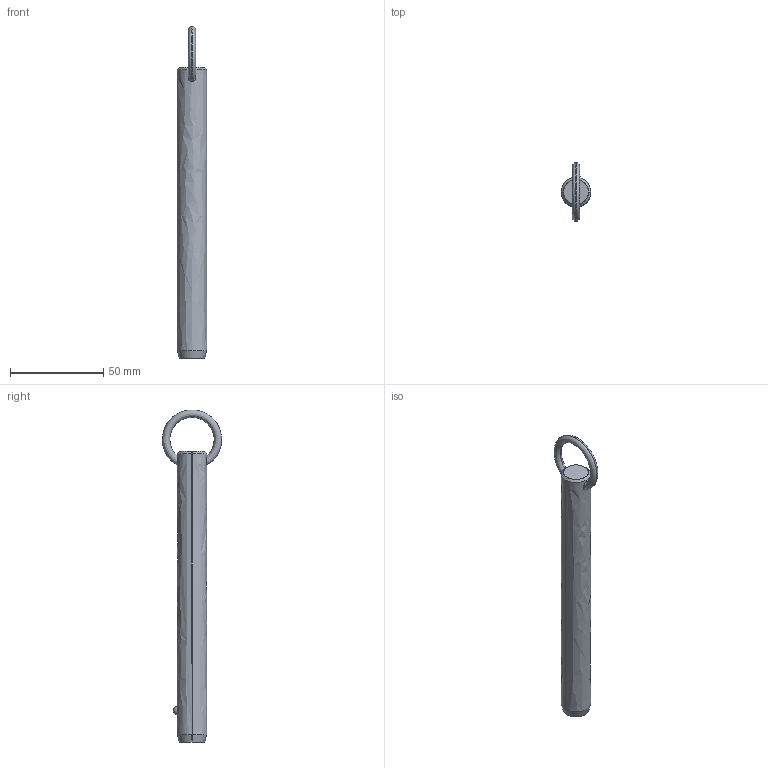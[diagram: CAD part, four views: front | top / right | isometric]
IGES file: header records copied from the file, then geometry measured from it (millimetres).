
Start section: SolidWorks IGES file using analytic representation for surfaces
Global section: file name: C:\Users\liam_\OneDrive\Documents\WORK\Work for WixRoyd\Job Files\J-00019 - Matt Davis CAD Checking\04. CAD Drawings\automotion20190605\P1250.2_v2\P1250.2_v2_20190729_IGES\P1250.062-500.igs; native system: SolidWorks 2017; preprocessor: SolidWorks 2017; author: liam_; date: 190729.233913; units: millimetre
Bounding box: 15.8 x 31.67 x 177.69 mm (x, y, z)
Surface area: 8892.4 mm2 (no closed solid volume)
Topology: 0 solids, 0 shells, 12 faces, 292 edges, 290 vertices
Faces by surface type: revolution 8, bspline 4
